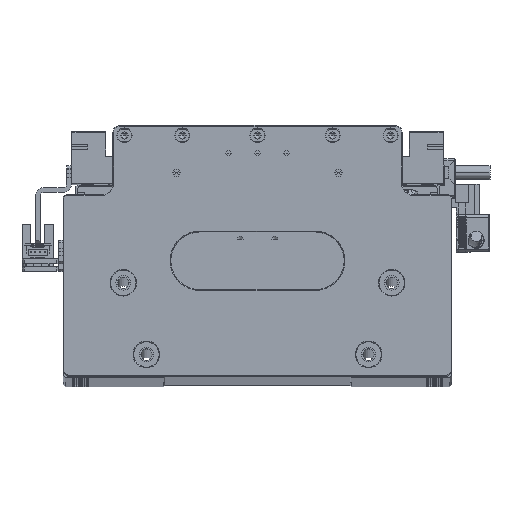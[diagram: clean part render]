
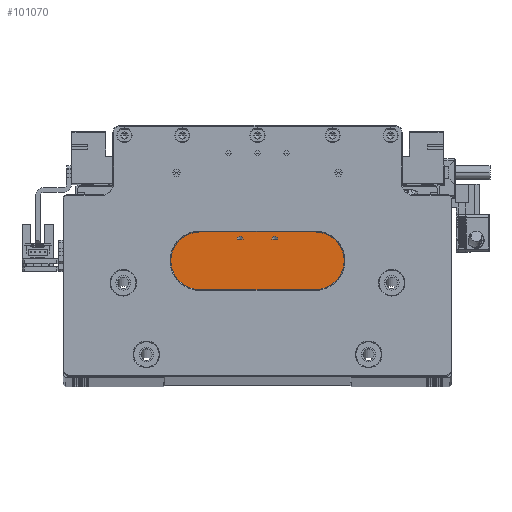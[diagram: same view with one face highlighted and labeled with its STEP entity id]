
A CAD part, top view. The second image highlights one B-rep face of the part: STEP entity #101070.
In plain terms, the highlighted planar face has unit normal (0, 0, 1).
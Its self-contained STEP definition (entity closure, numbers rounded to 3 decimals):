
#1812 = CARTESIAN_POINT ( 'NONE',  ( 45., 61.2, 90. ) ) ;
#2665 = VERTEX_POINT ( 'NONE', #28788 ) ;
#4331 = ORIENTED_EDGE ( 'NONE', *, *, #37438, .F. ) ;
#4960 = VERTEX_POINT ( 'NONE', #57795 ) ;
#5321 = DIRECTION ( 'NONE',  ( 0., 0., -1. ) ) ;
#6212 = VECTOR ( 'NONE', #80502, 1000. ) ;
#7496 = LINE ( 'NONE', #23295, #59999 ) ;
#9199 = CARTESIAN_POINT ( 'NONE',  ( -45., 61.2, 90. ) ) ;
#9590 = VERTEX_POINT ( 'NONE', #9199 ) ;
#15589 = LINE ( 'NONE', #25877, #131064 ) ;
#16219 = EDGE_CURVE ( 'NONE', #17142, #46211, #29292, .T. ) ;
#16852 = CIRCLE ( 'NONE', #138987, 1.25 ) ;
#17142 = VERTEX_POINT ( 'NONE', #78542 ) ;
#17445 = DIRECTION ( 'NONE',  ( -1., 0., 0. ) ) ;
#19471 = LINE ( 'NONE', #84448, #108685 ) ;
#20294 = CARTESIAN_POINT ( 'NONE',  ( -33.5, 69., 90. ) ) ;
#23295 = CARTESIAN_POINT ( 'NONE',  ( -45., 29., 90. ) ) ;
#23542 = FACE_BOUND ( 'NONE', #24933, .T. ) ;
#24933 = EDGE_LOOP ( 'NONE', ( #115478, #137238 ) ) ;
#25877 = CARTESIAN_POINT ( 'NONE',  ( 33.5, 69.2, 90. ) ) ;
#27593 = LINE ( 'NONE', #60211, #116775 ) ;
#28390 = EDGE_LOOP ( 'NONE', ( #29118, #106933 ) ) ;
#28788 = CARTESIAN_POINT ( 'NONE',  ( 45., 29., 90. ) ) ;
#29118 = ORIENTED_EDGE ( 'NONE', *, *, #16219, .T. ) ;
#29292 = CIRCLE ( 'NONE', #97000, 1.25 ) ;
#29543 = LINE ( 'NONE', #82769, #85525 ) ;
#31235 = DIRECTION ( 'NONE',  ( 0., -1., 0. ) ) ;
#31547 = CARTESIAN_POINT ( 'NONE',  ( 0., 69.2, 90. ) ) ;
#31579 = VECTOR ( 'NONE', #113653, 1000. ) ;
#32831 = LINE ( 'NONE', #86984, #118463 ) ;
#33427 = CARTESIAN_POINT ( 'NONE',  ( -33.5, 61.2, 90. ) ) ;
#33680 = CARTESIAN_POINT ( 'NONE',  ( -45., 69.2, 90. ) ) ;
#34537 = DIRECTION ( 'NONE',  ( -1., 0., 0. ) ) ;
#35567 = EDGE_CURVE ( 'NONE', #41314, #64431, #16852, .T. ) ;
#35961 = LINE ( 'NONE', #1812, #6212 ) ;
#37059 = CARTESIAN_POINT ( 'NONE',  ( -45., 29., 90. ) ) ;
#37438 = EDGE_CURVE ( 'NONE', #2665, #83141, #7496, .T. ) ;
#37651 = CARTESIAN_POINT ( 'NONE',  ( -7.5, 61.2, 90. ) ) ;
#40351 = EDGE_CURVE ( 'NONE', #62643, #2665, #35961, .T. ) ;
#41314 = VERTEX_POINT ( 'NONE', #131906 ) ;
#42804 = ORIENTED_EDGE ( 'NONE', *, *, #90394, .T. ) ;
#44921 = DIRECTION ( 'NONE',  ( 0., -1., 0. ) ) ;
#46211 = VERTEX_POINT ( 'NONE', #103426 ) ;
#48949 = DIRECTION ( 'NONE',  ( 1., 0., 0. ) ) ;
#50804 = AXIS2_PLACEMENT_3D ( 'NONE', #31547, #143444, #76550 ) ;
#54075 = VERTEX_POINT ( 'NONE', #85917 ) ;
#57795 = CARTESIAN_POINT ( 'NONE',  ( 33.5, 61.2, 90. ) ) ;
#57847 = LINE ( 'NONE', #102471, #31579 ) ;
#59999 = VECTOR ( 'NONE', #34537, 1000. ) ;
#60192 = EDGE_CURVE ( 'NONE', #4960, #54075, #15589, .T. ) ;
#60211 = CARTESIAN_POINT ( 'NONE',  ( 0., 61.2, 90. ) ) ;
#61382 = ORIENTED_EDGE ( 'NONE', *, *, #123749, .T. ) ;
#62643 = VERTEX_POINT ( 'NONE', #107692 ) ;
#64191 = CARTESIAN_POINT ( 'NONE',  ( 8.75, 61.2, 90. ) ) ;
#64431 = VERTEX_POINT ( 'NONE', #64191 ) ;
#65769 = EDGE_CURVE ( 'NONE', #46211, #17142, #57847, .T. ) ;
#72333 = CARTESIAN_POINT ( 'NONE',  ( 7.5, 61.2, 90. ) ) ;
#73032 = EDGE_CURVE ( 'NONE', #64431, #41314, #29543, .T. ) ;
#74699 = ORIENTED_EDGE ( 'NONE', *, *, #108867, .T. ) ;
#74778 = LINE ( 'NONE', #33680, #100982 ) ;
#76550 = DIRECTION ( 'NONE',  ( 1., 0., 0. ) ) ;
#78542 = CARTESIAN_POINT ( 'NONE',  ( -8.75, 61.2, 90. ) ) ;
#79982 = DIRECTION ( 'NONE',  ( -1., 0., 0. ) ) ;
#80502 = DIRECTION ( 'NONE',  ( 0., -1., 0. ) ) ;
#82769 = CARTESIAN_POINT ( 'NONE',  ( -45., 61.2, 90. ) ) ;
#83031 = FACE_BOUND ( 'NONE', #28390, .T. ) ;
#83141 = VERTEX_POINT ( 'NONE', #37059 ) ;
#83563 = DIRECTION ( 'NONE',  ( 1., 0., 0. ) ) ;
#84448 = CARTESIAN_POINT ( 'NONE',  ( 0., 61.2, 90. ) ) ;
#85525 = VECTOR ( 'NONE', #93955, 1000. ) ;
#85917 = CARTESIAN_POINT ( 'NONE',  ( 33.5, 69., 90. ) ) ;
#86984 = CARTESIAN_POINT ( 'NONE',  ( -33.5, 69.2, 90. ) ) ;
#90394 = EDGE_CURVE ( 'NONE', #54075, #105821, #141091, .T. ) ;
#91181 = CARTESIAN_POINT ( 'NONE',  ( 0., 69., 90. ) ) ;
#93859 = DIRECTION ( 'NONE',  ( -1., 0., 0. ) ) ;
#93955 = DIRECTION ( 'NONE',  ( -1., 0., 0. ) ) ;
#97000 = AXIS2_PLACEMENT_3D ( 'NONE', #37651, #115834, #48949 ) ;
#99929 = VERTEX_POINT ( 'NONE', #33427 ) ;
#100982 = VECTOR ( 'NONE', #44921, 1000. ) ;
#101070 = ADVANCED_FACE ( 'NONE', ( #142459, #83031, #23542 ), #132274, .T. ) ;
#102265 = ORIENTED_EDGE ( 'NONE', *, *, #60192, .T. ) ;
#102471 = CARTESIAN_POINT ( 'NONE',  ( -45., 61.2, 90. ) ) ;
#102683 = ORIENTED_EDGE ( 'NONE', *, *, #123511, .T. ) ;
#102856 = ORIENTED_EDGE ( 'NONE', *, *, #40351, .F. ) ;
#103426 = CARTESIAN_POINT ( 'NONE',  ( -6.25, 61.2, 90. ) ) ;
#105821 = VERTEX_POINT ( 'NONE', #20294 ) ;
#106933 = ORIENTED_EDGE ( 'NONE', *, *, #65769, .T. ) ;
#107692 = CARTESIAN_POINT ( 'NONE',  ( 45., 61.2, 90. ) ) ;
#108685 = VECTOR ( 'NONE', #17445, 1000. ) ;
#108867 = EDGE_CURVE ( 'NONE', #62643, #4960, #19471, .T. ) ;
#111362 = VECTOR ( 'NONE', #79982, 1000. ) ;
#112274 = ORIENTED_EDGE ( 'NONE', *, *, #123868, .T. ) ;
#113653 = DIRECTION ( 'NONE',  ( -1., 0., 0. ) ) ;
#115478 = ORIENTED_EDGE ( 'NONE', *, *, #35567, .T. ) ;
#115834 = DIRECTION ( 'NONE',  ( 0., 0., -1. ) ) ;
#116775 = VECTOR ( 'NONE', #93859, 1000. ) ;
#118463 = VECTOR ( 'NONE', #31235, 1000. ) ;
#120965 = EDGE_LOOP ( 'NONE', ( #102856, #74699, #102265, #42804, #61382, #102683, #112274, #4331 ) ) ;
#123511 = EDGE_CURVE ( 'NONE', #99929, #9590, #27593, .T. ) ;
#123749 = EDGE_CURVE ( 'NONE', #105821, #99929, #32831, .T. ) ;
#123868 = EDGE_CURVE ( 'NONE', #9590, #83141, #74778, .T. ) ;
#126600 = DIRECTION ( 'NONE',  ( 0., 1., 0. ) ) ;
#131064 = VECTOR ( 'NONE', #126600, 1000. ) ;
#131906 = CARTESIAN_POINT ( 'NONE',  ( 6.25, 61.2, 90. ) ) ;
#132274 = PLANE ( 'NONE',  #50804 ) ;
#137238 = ORIENTED_EDGE ( 'NONE', *, *, #73032, .T. ) ;
#138987 = AXIS2_PLACEMENT_3D ( 'NONE', #72333, #5321, #83563 ) ;
#141091 = LINE ( 'NONE', #91181, #111362 ) ;
#142459 = FACE_OUTER_BOUND ( 'NONE', #120965, .T. ) ;
#143444 = DIRECTION ( 'NONE',  ( 0., 0., 1. ) ) ;
